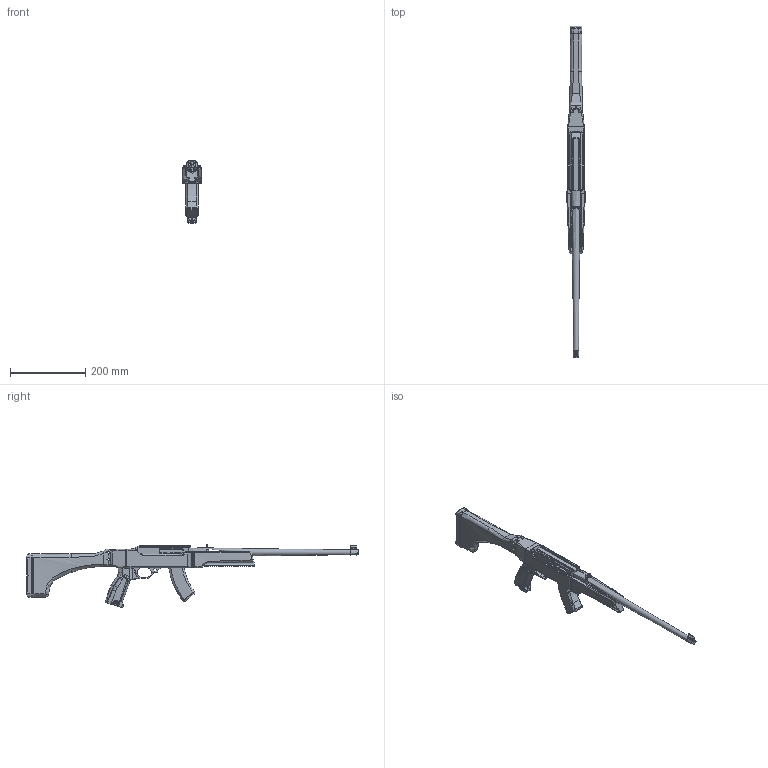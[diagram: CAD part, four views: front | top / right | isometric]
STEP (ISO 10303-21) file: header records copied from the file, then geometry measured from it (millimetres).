
FILE_DESCRIPTION(/* description */ (''),/* implementation_level */ '2;1');
FILE_NAME(/* name */ 'C:/Users/FFFTech/3D Objects/The Bad Stuff/Firearms Related/Firearms Parts/10-22 Parts/Receivers/L-X22 Receivers/STL Files/Final Concept (Meant ONLY for Visualisation, DONT PRINT).step',/* time_stamp */ '2021-08-11T01:15:51-04:00',/* author */ (''),/* organization */ (''),/* preprocessor_version */ 'ST-DEVELOPER v18.1',/* originating_system */ 'Autodesk Translation Framework v10.9.0.1377',/* authorisation */ '');
FILE_SCHEMA (('AUTOMOTIVE_DESIGN { 1 0 10303 214 3 1 1 }'));
Length unit declared in the file: millimetre
Products named in the file (1): Laffs Chassis
Bounding box: 50.15 x 884.8 x 167.3 mm (x, y, z)
Volume: 982067.1 mm3; surface area: 343569.2 mm2
Topology: 14 solids, 17 shells, 3009 faces, 7747 edges, 4630 vertices
Faces by surface type: plane 1018, bspline 850, cylinder 791, torus 235, cone 93, sphere 22
Full cylindrical faces by diameter (mm): 1.571 x1, 1.6 x1, 2.9 x1, 3.2 x2, 3.25 x7, 3.4 x1, 3.8 x8, 4 x4, 4.2 x2, 4.25 x1, 4.4 x1, 4.648 x2, 5 x3, 5.1 x4, 5.175 x4, 5.3 x1, 5.75 x1, 6.097 x1, 6.426 x2, 6.5 x1, 6.8 x1, 6.95 x1, 8 x7, 8.5 x1, 8.75 x2, 9 x2, 10.5 x1, 11.221 x1, 12.721 x1, 12.75 x1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
Entity records: 118347 total; most frequent: CARTESIAN_POINT 50491, ORIENTED_EDGE 15182, DIRECTION 12556, EDGE_CURVE 7591, VERTEX_POINT 4630, AXIS2_PLACEMENT_3D 4576, LINE 3404, VECTOR 3404
